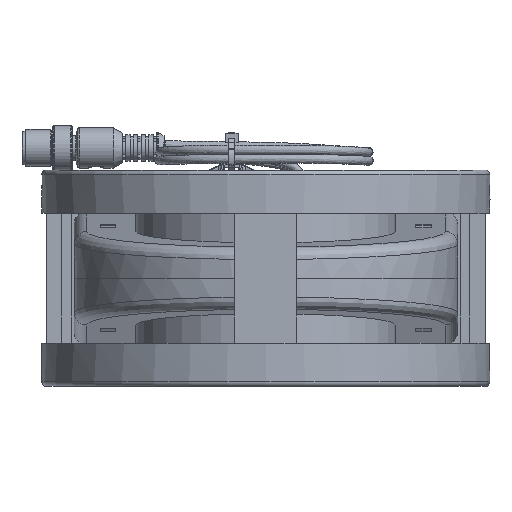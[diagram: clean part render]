
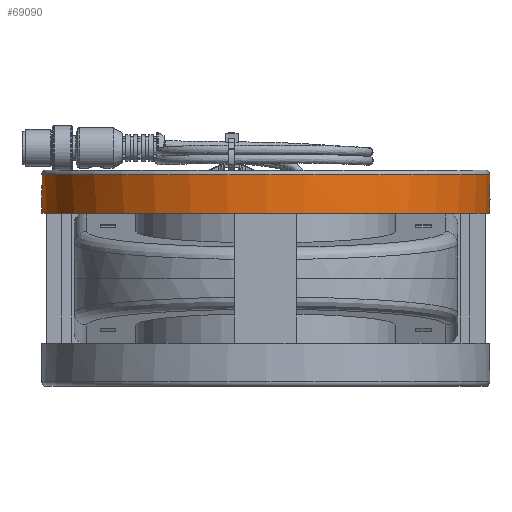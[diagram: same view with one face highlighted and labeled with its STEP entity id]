
A CAD part, front view. The second image highlights one B-rep face of the part: STEP entity #69090.
In plain terms, the highlighted cylindrical face has radius 72.5 mm (diameter 145 mm), a full revolution.
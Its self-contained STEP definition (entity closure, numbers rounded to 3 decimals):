
#10152=CIRCLE('',#139551,72.5);
#10153=CIRCLE('',#139555,72.5);
#10154=CIRCLE('',#139557,72.5);
#10155=CIRCLE('',#139559,72.5);
#69090=ADVANCED_FACE('',(#76447,#76448,#76449,#76450),#74764,.T.);
#74764=CYLINDRICAL_SURFACE('',#139561,72.5);
#76447=FACE_BOUND('',#77689,.T.);
#76448=FACE_BOUND('',#77690,.T.);
#76449=FACE_BOUND('',#77691,.T.);
#76450=FACE_BOUND('',#77692,.T.);
#77689=EDGE_LOOP('',(#85976,#85977,#85978));
#77690=EDGE_LOOP('',(#85979,#85980,#85981));
#77691=EDGE_LOOP('',(#85982));
#77692=EDGE_LOOP('',(#85983,#85984));
#85976=ORIENTED_EDGE('',*,*,#124914,.F.);
#85977=ORIENTED_EDGE('',*,*,#124915,.F.);
#85978=ORIENTED_EDGE('',*,*,#124916,.F.);
#85979=ORIENTED_EDGE('',*,*,#124917,.F.);
#85980=ORIENTED_EDGE('',*,*,#124918,.F.);
#85981=ORIENTED_EDGE('',*,*,#124919,.F.);
#85982=ORIENTED_EDGE('',*,*,#124920,.T.);
#85983=ORIENTED_EDGE('',*,*,#124912,.F.);
#85984=ORIENTED_EDGE('',*,*,#124921,.T.);
#114998=VERTEX_POINT('',#178244);
#114999=VERTEX_POINT('',#178245);
#115000=VERTEX_POINT('',#178249);
#115001=VERTEX_POINT('',#178250);
#115002=VERTEX_POINT('',#178252);
#115003=VERTEX_POINT('',#178255);
#115004=VERTEX_POINT('',#178256);
#115005=VERTEX_POINT('',#178258);
#115006=VERTEX_POINT('',#178261);
#124912=EDGE_CURVE('',#114998,#114999,#10152,.T.);
#124914=EDGE_CURVE('',#115000,#115001,#139044,.T.);
#124915=EDGE_CURVE('',#115002,#115000,#139045,.T.);
#124916=EDGE_CURVE('',#115001,#115002,#10153,.T.);
#124917=EDGE_CURVE('',#115003,#115004,#139046,.T.);
#124918=EDGE_CURVE('',#115005,#115003,#10154,.T.);
#124919=EDGE_CURVE('',#115004,#115005,#139047,.T.);
#124920=EDGE_CURVE('',#115006,#115006,#10155,.T.);
#124921=EDGE_CURVE('',#114998,#114999,#139048,.T.);
#139044=ELLIPSE('',#139553,145.,72.5);
#139045=ELLIPSE('',#139554,145.,72.5);
#139046=ELLIPSE('',#139556,145.,72.5);
#139047=ELLIPSE('',#139558,145.,72.5);
#139048=ELLIPSE('',#139560,72.777,72.5);
#139551=AXIS2_PLACEMENT_3D('',#178243,#149433,#149434);
#139553=AXIS2_PLACEMENT_3D('',#178248,#149438,#149439);
#139554=AXIS2_PLACEMENT_3D('',#178251,#149440,#149441);
#139555=AXIS2_PLACEMENT_3D('',#178253,#149442,#149443);
#139556=AXIS2_PLACEMENT_3D('',#178254,#149444,#149445);
#139557=AXIS2_PLACEMENT_3D('',#178257,#149446,#149447);
#139558=AXIS2_PLACEMENT_3D('',#178259,#149448,#149449);
#139559=AXIS2_PLACEMENT_3D('',#178260,#149450,#149451);
#139560=AXIS2_PLACEMENT_3D('',#178262,#149452,#149453);
#139561=AXIS2_PLACEMENT_3D('',#178263,#149454,#149455);
#149433=DIRECTION('',(-1.,0.,0.));
#149434=DIRECTION('',(0.,1.,0.));
#149438=DIRECTION('',(0.5,-0.866,0.));
#149439=DIRECTION('',(-0.866,-0.5,0.));
#149440=DIRECTION('',(0.5,0.866,0.));
#149441=DIRECTION('',(-0.866,0.5,0.));
#149442=DIRECTION('',(-1.,0.,0.));
#149443=DIRECTION('',(0.,1.,0.));
#149444=DIRECTION('',(0.5,-0.866,0.));
#149445=DIRECTION('',(-0.866,-0.5,0.));
#149446=DIRECTION('',(-1.,0.,0.));
#149447=DIRECTION('',(0.,1.,0.));
#149448=DIRECTION('',(0.5,0.866,0.));
#149449=DIRECTION('',(-0.866,0.5,0.));
#149450=DIRECTION('',(-1.,0.,0.));
#149451=DIRECTION('',(0.,1.,0.));
#149452=DIRECTION('',(0.996,-0.087,0.));
#149453=DIRECTION('',(-0.087,-0.996,0.));
#149454=DIRECTION('',(-1.,0.,0.));
#149455=DIRECTION('',(0.,1.,0.));
#178243=CARTESIAN_POINT('',(21.,0.,0.));
#178244=CARTESIAN_POINT('',(21.,66.785,-28.214));
#178245=CARTESIAN_POINT('',(21.,66.785,28.214));
#178248=CARTESIAN_POINT('',(25.5,0.,0.));
#178249=CARTESIAN_POINT('',(25.5,0.,-72.5));
#178250=CARTESIAN_POINT('',(30.,2.598,-72.453));
#178251=CARTESIAN_POINT('',(25.5,0.,0.));
#178252=CARTESIAN_POINT('',(30.,-2.598,-72.453));
#178253=CARTESIAN_POINT('',(30.,0.,0.));
#178254=CARTESIAN_POINT('',(25.5,0.,0.));
#178255=CARTESIAN_POINT('',(30.,2.598,72.453));
#178256=CARTESIAN_POINT('',(25.5,0.,72.5));
#178257=CARTESIAN_POINT('',(30.,0.,0.));
#178258=CARTESIAN_POINT('',(30.,-2.598,72.453));
#178259=CARTESIAN_POINT('',(25.5,0.,0.));
#178260=CARTESIAN_POINT('',(33.5,0.,0.));
#178261=CARTESIAN_POINT('',(33.5,72.5,0.));
#178262=CARTESIAN_POINT('',(15.157,0.,0.));
#178263=CARTESIAN_POINT('',(13.6,0.,0.));
